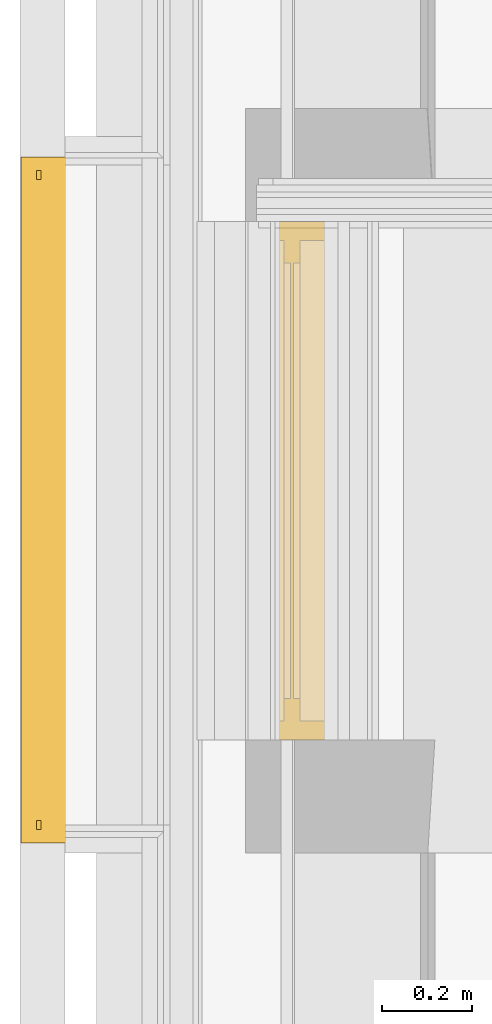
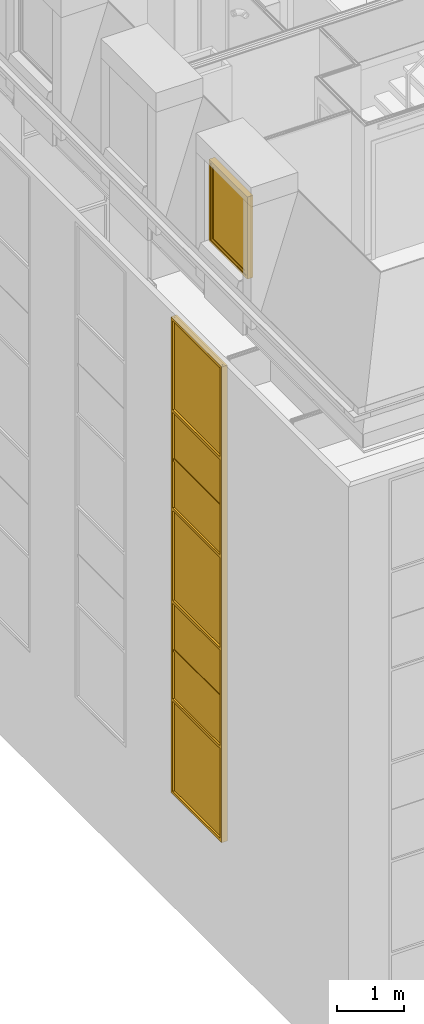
# One storey, part 95 of 169: 1 curtain wall, 1 window.
"""IFC2X3 building model written with IfcOpenShell, lengths in metres."""

from ifc_helpers import new_model, entity, si_unit, converted_unit, derived_unit, money_unit, direction, frame, origin_with_axes, place, context, subcontext, project, spatial, faceted_brep, material, type_object, element, save


model = new_model("IFC2X3")

# Units and contexts
model_context = context("Model", 3, precision=1e-05, world=origin_with_axes(), true_north=direction((0.0, 1.0)))
body_context = subcontext(model_context, "Body", "Model", "MODEL_VIEW", scale=1.0)
ifc_project = project(units=[si_unit("LENGTHUNIT", "METRE"), si_unit("AREAUNIT", "SQUARE_METRE"), si_unit("VOLUMEUNIT", "CUBIC_METRE"), si_unit("ABSORBEDDOSEUNIT", "GRAY"), si_unit("AMOUNTOFSUBSTANCEUNIT", "MOLE"), si_unit("DOSEEQUIVALENTUNIT", "SIEVERT"), si_unit("ELECTRICCAPACITANCEUNIT", "FARAD"), si_unit("ELECTRICCHARGEUNIT", "COULOMB"), si_unit("ELECTRICCONDUCTANCEUNIT", "SIEMENS"), si_unit("ELECTRICCURRENTUNIT", "AMPERE"), si_unit("ELECTRICRESISTANCEUNIT", "OHM"), si_unit("ELECTRICVOLTAGEUNIT", "VOLT"), si_unit("ENERGYUNIT", "JOULE"), si_unit("FORCEUNIT", "NEWTON"), si_unit("FREQUENCYUNIT", "HERTZ"), si_unit("ILLUMINANCEUNIT", "LUX"), si_unit("INDUCTANCEUNIT", "HENRY"), si_unit("LUMINOUSFLUXUNIT", "LUMEN"), si_unit("LUMINOUSINTENSITYUNIT", "CANDELA"), si_unit("MAGNETICFLUXDENSITYUNIT", "TESLA"), si_unit("MAGNETICFLUXUNIT", "WEBER"), si_unit("MASSUNIT", "GRAM"), converted_unit("PLANEANGLEUNIT", "degree", entity("IfcReal", 0.0174532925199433), si_unit("PLANEANGLEUNIT", "RADIAN"), dimensions=[0, 0, 0, 0, 0, 0, 0]), si_unit("POWERUNIT", "WATT"), si_unit("PRESSUREUNIT", "PASCAL"), si_unit("RADIOACTIVITYUNIT", "BECQUEREL"), si_unit("SOLIDANGLEUNIT", "STERADIAN"), si_unit("THERMODYNAMICTEMPERATUREUNIT", "KELVIN"), si_unit("TIMEUNIT", "SECOND"), derived_unit("ACCELERATIONUNIT", [(si_unit("LENGTHUNIT", "METRE"), 1), (si_unit("TIMEUNIT", "SECOND"), -2)]), derived_unit("ANGULARVELOCITYUNIT", [(converted_unit("PLANEANGLEUNIT", "degree", entity("IfcReal", 0.0174532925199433), si_unit("PLANEANGLEUNIT", "RADIAN"), dimensions=[0, 0, 0, 0, 0, 0, 0]), 1), (si_unit("TIMEUNIT", "SECOND"), -1)]), derived_unit("CURVATUREUNIT", [(converted_unit("PLANEANGLEUNIT", "degree", entity("IfcReal", 0.0174532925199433), si_unit("PLANEANGLEUNIT", "RADIAN"), dimensions=[0, 0, 0, 0, 0, 0, 0]), 1), (si_unit("LENGTHUNIT", "METRE"), -1)]), derived_unit("DYNAMICVISCOSITYUNIT", [(si_unit("PRESSUREUNIT", "PASCAL"), 1), (si_unit("TIMEUNIT", "SECOND"), 1)]), derived_unit("HEATFLUXDENSITYUNIT", [(si_unit("POWERUNIT", "WATT"), 1), (si_unit("LENGTHUNIT", "METRE"), -2)]), derived_unit("HEATINGVALUEUNIT", [(si_unit("ENERGYUNIT", "JOULE"), 1), (si_unit("MASSUNIT", "GRAM"), -1)]), derived_unit("INTEGERCOUNTRATEUNIT", [(si_unit("TIMEUNIT", "SECOND"), -1)]), derived_unit("IONCONCENTRATIONUNIT", [(si_unit("MASSUNIT", "GRAM"), 1), (si_unit("VOLUMEUNIT", "CUBIC_METRE"), -1)]), derived_unit("ISOTHERMALMOISTURECAPACITYUNIT", [(si_unit("VOLUMEUNIT", "CUBIC_METRE"), 1), (si_unit("MASSUNIT", "GRAM"), -1)]), derived_unit("KINEMATICVISCOSITYUNIT", [(si_unit("AREAUNIT", "SQUARE_METRE"), 1), (si_unit("TIMEUNIT", "SECOND"), -1)]), derived_unit("LINEARFORCEUNIT", [(si_unit("FORCEUNIT", "NEWTON"), 1), (si_unit("LENGTHUNIT", "METRE"), -1)]), derived_unit("LINEARMOMENTUNIT", [(si_unit("FORCEUNIT", "NEWTON"), 1), (si_unit("LENGTHUNIT", "METRE"), -1)]), derived_unit("LINEARSTIFFNESSUNIT", [(si_unit("FORCEUNIT", "NEWTON"), 1), (si_unit("LENGTHUNIT", "METRE"), -1)]), derived_unit("LINEARVELOCITYUNIT", [(si_unit("LENGTHUNIT", "METRE"), 1), (si_unit("TIMEUNIT", "SECOND"), -1)]), derived_unit("LUMINOUSINTENSITYDISTRIBUTIONUNIT", [(si_unit("LUMINOUSINTENSITYUNIT", "CANDELA"), 1), (si_unit("LUMINOUSFLUXUNIT", "LUMEN"), -1)]), derived_unit("MASSDENSITYUNIT", [(si_unit("MASSUNIT", "GRAM"), 1), (si_unit("VOLUMEUNIT", "CUBIC_METRE"), -1)]), derived_unit("MASSFLOWRATEUNIT", [(si_unit("MASSUNIT", "GRAM"), 1), (si_unit("TIMEUNIT", "SECOND"), -1)]), derived_unit("MASSPERLENGTHUNIT", [(si_unit("MASSUNIT", "GRAM"), 1), (si_unit("LENGTHUNIT", "METRE"), -1)]), derived_unit("MODULUSOFELASTICITYUNIT", [(si_unit("FORCEUNIT", "NEWTON"), 1), (si_unit("AREAUNIT", "SQUARE_METRE"), -1)]), derived_unit("MODULUSOFLINEARSUBGRADEREACTIONUNIT", [(si_unit("FORCEUNIT", "NEWTON"), 1), (si_unit("LENGTHUNIT", "METRE"), -2)]), derived_unit("MODULUSOFROTATIONALSUBGRADEREACTIONUNIT", [(si_unit("FORCEUNIT", "NEWTON"), 1), (si_unit("LENGTHUNIT", "METRE"), 1)]), derived_unit("MODULUSOFSUBGRADEREACTIONUNIT", [(si_unit("FORCEUNIT", "NEWTON"), 1), (si_unit("VOLUMEUNIT", "CUBIC_METRE"), -1)]), derived_unit("MOISTUREDIFFUSIVITYUNIT", [(si_unit("VOLUMEUNIT", "CUBIC_METRE"), 1), (si_unit("TIMEUNIT", "SECOND"), -1)]), derived_unit("MOLECULARWEIGHTUNIT", [(si_unit("MASSUNIT", "GRAM"), 1), (si_unit("AMOUNTOFSUBSTANCEUNIT", "MOLE"), -1)]), derived_unit("PLANARFORCEUNIT", [(si_unit("FORCEUNIT", "NEWTON"), 1), (si_unit("LENGTHUNIT", "METRE"), -2)]), derived_unit("ROTATIONALFREQUENCYUNIT", [(si_unit("TIMEUNIT", "SECOND"), -1)]), derived_unit("ROTATIONALMASSUNIT", [(si_unit("MASSUNIT", "GRAM"), 1), (si_unit("LENGTHUNIT", "METRE"), 2)]), derived_unit("ROTATIONALSTIFFNESSUNIT", [(si_unit("FORCEUNIT", "NEWTON"), 1), (si_unit("LENGTHUNIT", "METRE"), 1), (converted_unit("PLANEANGLEUNIT", "degree", entity("IfcReal", 0.0174532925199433), si_unit("PLANEANGLEUNIT", "RADIAN"), dimensions=[0, 0, 0, 0, 0, 0, 0]), -1)]), derived_unit("SECTIONAREAINTEGRALUNIT", [(si_unit("LENGTHUNIT", "METRE"), 5)]), derived_unit("SECTIONMODULUSUNIT", [(si_unit("LENGTHUNIT", "METRE"), 3)]), derived_unit("SHEARMODULUSUNIT", [(si_unit("FORCEUNIT", "NEWTON"), 1), (si_unit("AREAUNIT", "SQUARE_METRE"), -1)]), derived_unit("SOUNDPOWERUNIT", [(si_unit("ENERGYUNIT", "JOULE"), 1), (si_unit("TIMEUNIT", "SECOND"), -1)]), derived_unit("SPECIFICHEATCAPACITYUNIT", [(si_unit("FORCEUNIT", "NEWTON"), 1), (si_unit("MASSUNIT", "GRAM"), -1), (si_unit("THERMODYNAMICTEMPERATUREUNIT", "KELVIN"), -1)]), derived_unit("TEMPERATUREGRADIENTUNIT", [(si_unit("THERMODYNAMICTEMPERATUREUNIT", "KELVIN"), 1), (si_unit("LENGTHUNIT", "METRE"), -1)]), derived_unit("THERMALADMITTANCEUNIT", [(si_unit("POWERUNIT", "WATT"), 1), (si_unit("AREAUNIT", "SQUARE_METRE"), -1), (si_unit("THERMODYNAMICTEMPERATUREUNIT", "KELVIN"), -1)]), derived_unit("THERMALCONDUCTANCEUNIT", [(si_unit("POWERUNIT", "WATT"), 1), (si_unit("LENGTHUNIT", "METRE"), -1), (si_unit("THERMODYNAMICTEMPERATUREUNIT", "KELVIN"), -1)]), derived_unit("THERMALEXPANSIONCOEFFICIENTUNIT", [(si_unit("THERMODYNAMICTEMPERATUREUNIT", "KELVIN"), -1)]), derived_unit("THERMALRESISTANCEUNIT", [(si_unit("AREAUNIT", "SQUARE_METRE"), 1), (si_unit("POWERUNIT", "WATT"), -1)]), derived_unit("THERMALTRANSMITTANCEUNIT", [(si_unit("POWERUNIT", "WATT"), 1), (si_unit("AREAUNIT", "SQUARE_METRE"), -1), (si_unit("THERMODYNAMICTEMPERATUREUNIT", "KELVIN"), -1)]), derived_unit("TORQUEUNIT", [(si_unit("FORCEUNIT", "NEWTON"), 1), (si_unit("LENGTHUNIT", "METRE"), 1)]), derived_unit("VAPORPERMEABILITYUNIT", [(si_unit("MASSUNIT", "GRAM"), 1), (si_unit("TIMEUNIT", "SECOND"), -1)]), derived_unit("VOLUMETRICFLOWRATEUNIT", [(si_unit("VOLUMEUNIT", "CUBIC_METRE"), 1), (si_unit("TIMEUNIT", "SECOND"), -1)]), derived_unit("WARPINGCONSTANTUNIT", [(si_unit("LENGTHUNIT", "METRE"), 6)]), derived_unit("WARPINGMOMENTUNIT", [(si_unit("FORCEUNIT", "NEWTON"), 1), (si_unit("LENGTHUNIT", "METRE"), 2)]), money_unit("GBP")], contexts=[model_context])

# Site, building, storey
site_placement = place(None, origin_with_axes())
site = spatial("IfcSite", under=ifc_project, at=site_placement, Name="Site", CompositionType="ELEMENT")
building_placement = place(site_placement, origin_with_axes())
building = spatial("IfcBuilding", under=site, at=building_placement, Name="Building01", CompositionType="ELEMENT")
storey_placement = place(building_placement, frame((0.0, 0.0, 5.15), z_axis=(0.0, 0.0, 1.0), x_axis=(1.0, 0.0, 0.0)))
storey = spatial("IfcBuildingStorey", under=building, at=storey_placement, Name="1F", CompositionType="ELEMENT", Elevation=5.15)

# Curtain wall
ifc_material_1 = material(Name="A-CurtainWall_Frame")
curtain_wall_type = type_object("IfcCurtainWallType", Name="Pattern - Maximum Spacing", PredefinedType="NOTDEFINED")
curtain_wall_placement = place(storey_placement, frame((0.0, 0.0, -5.15), z_axis=(0.0, 0.0, 1.0), x_axis=(1.0, 0.0, 0.0)))
element("IfcCurtainWall", 1, at=curtain_wall_placement, inside=storey, type_object=curtain_wall_type, material=ifc_material_1, Name="15", ObjectType="Pattern - Maximum Spacing", context=body_context, shape_type="Brep", body=[
    faceted_brep([(0.047043, 5.28718, 7.729632), (0.037043, 5.28718, 7.729632), (0.037043, 3.82718, 7.729632), (0.047043, 3.82718, 7.729632), (0.047043, 5.28718, 6.045508), (0.037043, 5.28718, 6.045508), (0.047043, 3.82718, 6.045508), (0.037043, 3.82718, 6.045508)], [[[0, 1, 2, 3]], [[4, 5, 1, 0]], [[6, 7, 5, 4]], [[3, 2, 7, 6]], [[1, 5, 7, 2]], [[3, 6, 4, 0]]]),
    faceted_brep([(0.002043, 3.84718, 6.015508), (0.037043, 3.84718, 6.015508), (0.037043, 3.82718, 6.015508), (0.047043, 3.82718, 6.015508), (0.047043, 3.84718, 6.015508), (0.102043, 3.84718, 6.015508), (0.102043, 3.79718, 6.015508), (0.002043, 3.79718, 6.015508), (0.002043, 3.79718, 7.734632), (0.002043, 3.84718, 7.734632), (0.037043, 3.84718, 7.734632), (0.037043, 3.82718, 7.734632), (0.047043, 3.82718, 7.734632), (0.047043, 3.84718, 7.734632), (0.102043, 3.84718, 7.734632), (0.102043, 3.79718, 7.734632)], [[[0, 1, 2, 3, 4, 5, 6, 7]], [[7, 8, 9, 0]], [[0, 9, 10, 1]], [[1, 10, 11, 2]], [[2, 11, 12, 3]], [[3, 12, 13, 4]], [[4, 13, 14, 5]], [[5, 14, 15, 6]], [[6, 15, 8, 7]]]),
    faceted_brep([(0.002043, 5.26718, 6.065508), (0.037043, 5.26718, 6.065508), (0.037043, 5.26718, 6.045508), (0.047043, 5.26718, 6.045508), (0.047043, 5.26718, 6.065508), (0.102043, 5.26718, 6.065508), (0.102043, 5.26718, 6.015508), (0.002043, 5.26718, 6.015508), (0.002043, 3.84718, 6.015508), (0.002043, 3.84718, 6.065508), (0.037043, 3.84718, 6.065508), (0.037043, 3.84718, 6.045508), (0.047043, 3.84718, 6.045508), (0.047043, 3.84718, 6.065508), (0.102043, 3.84718, 6.065508), (0.102043, 3.84718, 6.015508)], [[[0, 1, 2, 3, 4, 5, 6, 7]], [[7, 8, 9, 0]], [[0, 9, 10, 1]], [[1, 10, 11, 2]], [[2, 11, 12, 3]], [[3, 12, 13, 4]], [[4, 13, 14, 5]], [[5, 14, 15, 6]], [[6, 15, 8, 7]], [[8, 15, 14, 13, 12, 11, 10, 9]]]),
    faceted_brep([(0.037043, 5.28718, 6.015508), (0.037043, 5.28718, 7.734632), (0.037043, 5.26718, 7.734632), (0.037043, 5.26718, 6.015508), (0.047043, 5.28718, 6.015508), (0.047043, 5.28718, 7.734632), (0.047043, 5.26718, 6.015508), (0.047043, 5.26718, 7.734632), (0.102043, 5.26718, 6.015508), (0.102043, 5.26718, 7.734632), (0.102043, 5.31718, 6.015508), (0.102043, 5.31718, 7.734632), (0.002043, 5.31718, 6.015508), (0.002043, 5.31718, 7.734632), (0.002043, 5.26718, 6.015508), (0.002043, 5.26718, 7.734632)], [[[0, 1, 2, 3]], [[4, 5, 1, 0]], [[6, 7, 5, 4]], [[8, 9, 7, 6]], [[10, 11, 9, 8]], [[12, 13, 11, 10]], [[14, 15, 13, 12]], [[3, 2, 15, 14]], [[14, 12, 10, 8, 6, 4, 0, 3]]]),
    faceted_brep([(0.047043, 3.84718, 7.739632), (0.037043, 3.84718, 7.739632), (0.037043, 3.84718, 7.759632), (0.002043, 3.84718, 7.759632), (0.002043, 3.84718, 7.709632), (0.037043, 3.84718, 7.709632), (0.037043, 3.84718, 7.729632), (0.047043, 3.84718, 7.729632), (0.047043, 3.84718, 7.709632), (0.102043, 3.84718, 7.709632), (0.102043, 3.84718, 7.759632), (0.047043, 3.84718, 7.759632), (0.047043, 5.26718, 7.759632), (0.047043, 5.26718, 7.739632), (0.037043, 5.26718, 7.739632), (0.037043, 5.26718, 7.759632), (0.002043, 5.26718, 7.759632), (0.002043, 5.26718, 7.709632), (0.037043, 5.26718, 7.709632), (0.047043, 5.26718, 7.729632), (0.047043, 5.26718, 7.709632), (0.037043, 5.26718, 7.729632), (0.102043, 5.26718, 7.759632), (0.102043, 5.26718, 7.709632)], [[[0, 1, 2, 3, 4, 5, 6, 7, 8, 9, 10, 11]], [[11, 12, 13, 0]], [[0, 13, 14, 1]], [[1, 14, 15, 2]], [[2, 15, 16, 3]], [[3, 16, 17, 4]], [[4, 17, 18, 5]], [[7, 19, 20, 8]], [[6, 21, 19, 7]], [[5, 18, 21, 6]], [[10, 22, 12, 11]], [[9, 23, 22, 10]], [[8, 20, 23, 9]], [[20, 19, 21, 18, 17, 16, 15, 14, 13, 12, 22, 23]]]),
    faceted_brep([(0.052043, 5.28718, 8.626522), (0.032043, 5.28718, 8.626522), (0.032043, 3.82718, 8.626522), (0.052043, 3.82718, 8.626522), (0.052043, 5.28718, 7.739632), (0.032043, 5.28718, 7.739632), (0.052043, 3.82718, 7.739632), (0.032043, 3.82718, 7.739632)], [[[0, 1, 2, 3]], [[4, 5, 1, 0]], [[6, 7, 5, 4]], [[3, 2, 7, 6]], [[1, 5, 7, 2]], [[3, 6, 4, 0]]]),
    faceted_brep([(0.102043, 3.79718, 8.631522), (0.102043, 3.79718, 7.734632), (0.102043, 3.84718, 7.734632), (0.102043, 3.84718, 8.631522), (0.002043, 3.79718, 8.631522), (0.002043, 3.79718, 7.734632), (0.002043, 3.84718, 8.631522), (0.002043, 3.84718, 7.734632), (0.037043, 3.84718, 8.631522), (0.037043, 3.84718, 7.734632), (0.037043, 3.82718, 8.631522), (0.037043, 3.82718, 7.734632), (0.047043, 3.82718, 8.631522), (0.047043, 3.82718, 7.734632), (0.047043, 3.84718, 8.631522), (0.047043, 3.84718, 7.734632)], [[[0, 1, 2, 3]], [[4, 5, 1, 0]], [[6, 7, 5, 4]], [[8, 9, 7, 6]], [[10, 11, 9, 8]], [[12, 13, 11, 10]], [[14, 15, 13, 12]], [[3, 2, 15, 14]]]),
    faceted_brep([(0.037043, 5.28718, 7.734632), (0.037043, 5.28718, 8.631522), (0.037043, 5.26718, 8.631522), (0.037043, 5.26718, 7.734632), (0.047043, 5.28718, 7.734632), (0.047043, 5.28718, 8.631522), (0.047043, 5.26718, 7.734632), (0.047043, 5.26718, 8.631522), (0.102043, 5.26718, 7.734632), (0.102043, 5.26718, 8.631522), (0.102043, 5.31718, 7.734632), (0.102043, 5.31718, 8.631522), (0.002043, 5.31718, 7.734632), (0.002043, 5.31718, 8.631522), (0.002043, 5.26718, 7.734632), (0.002043, 5.26718, 8.631522)], [[[0, 1, 2, 3]], [[4, 5, 1, 0]], [[6, 7, 5, 4]], [[8, 9, 7, 6]], [[10, 11, 9, 8]], [[12, 13, 11, 10]], [[14, 15, 13, 12]], [[3, 2, 15, 14]]]),
    faceted_brep([(0.064543, 3.84718, 8.636522), (0.054543, 3.84718, 8.636522), (0.054543, 3.84718, 8.656522), (0.019543, 3.84718, 8.656522), (0.019543, 3.84718, 8.606522), (0.054543, 3.84718, 8.606522), (0.054543, 3.84718, 8.626522), (0.064543, 3.84718, 8.626522), (0.064543, 3.84718, 8.606522), (0.119543, 3.84718, 8.606522), (0.119543, 3.84718, 8.656522), (0.064543, 3.84718, 8.656522), (0.064543, 5.26718, 8.656522), (0.064543, 5.26718, 8.636522), (0.054543, 5.26718, 8.636522), (0.054543, 5.26718, 8.656522), (0.019543, 5.26718, 8.656522), (0.019543, 5.26718, 8.606522), (0.054543, 5.26718, 8.606522), (0.064543, 5.26718, 8.626522), (0.064543, 5.26718, 8.606522), (0.054543, 5.26718, 8.626522), (0.119543, 5.26718, 8.656522), (0.119543, 5.26718, 8.606522)], [[[0, 1, 2, 3, 4, 5, 6, 7, 8, 9, 10, 11]], [[11, 12, 13, 0]], [[0, 13, 14, 1]], [[1, 14, 15, 2]], [[2, 15, 16, 3]], [[3, 16, 17, 4]], [[4, 17, 18, 5]], [[7, 19, 20, 8]], [[6, 21, 19, 7]], [[5, 18, 21, 6]], [[10, 22, 12, 11]], [[9, 23, 22, 10]], [[8, 20, 23, 9]], [[20, 19, 21, 18, 17, 16, 15, 14, 13, 12, 22, 23]]]),
    faceted_brep([(0.052043, 5.28718, 9.523411), (0.032043, 5.28718, 9.523411), (0.032043, 3.82718, 9.523411), (0.052043, 3.82718, 9.523411), (0.052043, 5.28718, 8.636522), (0.032043, 5.28718, 8.636522), (0.052043, 3.82718, 8.636522), (0.032043, 3.82718, 8.636522)], [[[0, 1, 2, 3]], [[4, 5, 1, 0]], [[6, 7, 5, 4]], [[3, 2, 7, 6]], [[1, 5, 7, 2]], [[3, 6, 4, 0]]]),
    faceted_brep([(0.102043, 3.79718, 9.528411), (0.102043, 3.79718, 8.631522), (0.102043, 3.84718, 8.631522), (0.102043, 3.84718, 9.528411), (0.002043, 3.79718, 9.528411), (0.002043, 3.79718, 8.631522), (0.002043, 3.84718, 9.528411), (0.002043, 3.84718, 8.631522), (0.037043, 3.84718, 9.528411), (0.037043, 3.84718, 8.631522), (0.037043, 3.82718, 9.528411), (0.037043, 3.82718, 8.631522), (0.047043, 3.82718, 9.528411), (0.047043, 3.82718, 8.631522), (0.047043, 3.84718, 9.528411), (0.047043, 3.84718, 8.631522)], [[[0, 1, 2, 3]], [[4, 5, 1, 0]], [[6, 7, 5, 4]], [[8, 9, 7, 6]], [[10, 11, 9, 8]], [[12, 13, 11, 10]], [[14, 15, 13, 12]], [[3, 2, 15, 14]]]),
    faceted_brep([(0.037043, 5.28718, 8.631522), (0.037043, 5.28718, 9.528411), (0.037043, 5.26718, 9.528411), (0.037043, 5.26718, 8.631522), (0.047043, 5.28718, 8.631522), (0.047043, 5.28718, 9.528411), (0.047043, 5.26718, 8.631522), (0.047043, 5.26718, 9.528411), (0.102043, 5.26718, 8.631522), (0.102043, 5.26718, 9.528411), (0.102043, 5.31718, 8.631522), (0.102043, 5.31718, 9.528411), (0.002043, 5.31718, 8.631522), (0.002043, 5.31718, 9.528411), (0.002043, 5.26718, 8.631522), (0.002043, 5.26718, 9.528411)], [[[0, 1, 2, 3]], [[4, 5, 1, 0]], [[6, 7, 5, 4]], [[8, 9, 7, 6]], [[10, 11, 9, 8]], [[12, 13, 11, 10]], [[14, 15, 13, 12]], [[3, 2, 15, 14]]]),
    faceted_brep([(0.047043, 3.84718, 9.533411), (0.037043, 3.84718, 9.533411), (0.037043, 3.84718, 9.553411), (0.002043, 3.84718, 9.553411), (0.002043, 3.84718, 9.503411), (0.037043, 3.84718, 9.503411), (0.037043, 3.84718, 9.523411), (0.047043, 3.84718, 9.523411), (0.047043, 3.84718, 9.503411), (0.102043, 3.84718, 9.503411), (0.102043, 3.84718, 9.553411), (0.047043, 3.84718, 9.553411), (0.047043, 5.26718, 9.553411), (0.047043, 5.26718, 9.533411), (0.037043, 5.26718, 9.533411), (0.037043, 5.26718, 9.553411), (0.002043, 5.26718, 9.553411), (0.002043, 5.26718, 9.503411), (0.037043, 5.26718, 9.503411), (0.047043, 5.26718, 9.523411), (0.047043, 5.26718, 9.503411), (0.037043, 5.26718, 9.523411), (0.102043, 5.26718, 9.553411), (0.102043, 5.26718, 9.503411)], [[[0, 1, 2, 3, 4, 5, 6, 7, 8, 9, 10, 11]], [[11, 12, 13, 0]], [[0, 13, 14, 1]], [[1, 14, 15, 2]], [[2, 15, 16, 3]], [[3, 16, 17, 4]], [[4, 17, 18, 5]], [[7, 19, 20, 8]], [[6, 21, 19, 7]], [[5, 18, 21, 6]], [[10, 22, 12, 11]], [[9, 23, 22, 10]], [[8, 20, 23, 9]], [[20, 19, 21, 18, 17, 16, 15, 14, 13, 12, 22, 23]]]),
    faceted_brep([(0.047043, 5.28718, 11.217536), (0.037043, 5.28718, 11.217536), (0.037043, 3.82718, 11.217536), (0.047043, 3.82718, 11.217536), (0.047043, 5.28718, 9.533411), (0.037043, 5.28718, 9.533411), (0.047043, 3.82718, 9.533411), (0.037043, 3.82718, 9.533411)], [[[0, 1, 2, 3]], [[4, 5, 1, 0]], [[6, 7, 5, 4]], [[3, 2, 7, 6]], [[1, 5, 7, 2]], [[3, 6, 4, 0]]]),
    faceted_brep([(0.102043, 3.79718, 11.222536), (0.102043, 3.79718, 9.528411), (0.102043, 3.84718, 9.528411), (0.102043, 3.84718, 11.222536), (0.002043, 3.79718, 11.222536), (0.002043, 3.79718, 9.528411), (0.002043, 3.84718, 11.222536), (0.002043, 3.84718, 9.528411), (0.037043, 3.84718, 11.222536), (0.037043, 3.84718, 9.528411), (0.037043, 3.82718, 11.222536), (0.037043, 3.82718, 9.528411), (0.047043, 3.82718, 11.222536), (0.047043, 3.82718, 9.528411), (0.047043, 3.84718, 11.222536), (0.047043, 3.84718, 9.528411)], [[[0, 1, 2, 3]], [[4, 5, 1, 0]], [[6, 7, 5, 4]], [[8, 9, 7, 6]], [[10, 11, 9, 8]], [[12, 13, 11, 10]], [[14, 15, 13, 12]], [[3, 2, 15, 14]]]),
    faceted_brep([(0.037043, 5.28718, 9.528411), (0.037043, 5.28718, 11.222536), (0.037043, 5.26718, 11.222536), (0.037043, 5.26718, 9.528411), (0.047043, 5.28718, 9.528411), (0.047043, 5.28718, 11.222536), (0.047043, 5.26718, 9.528411), (0.047043, 5.26718, 11.222536), (0.102043, 5.26718, 9.528411), (0.102043, 5.26718, 11.222536), (0.102043, 5.31718, 9.528411), (0.102043, 5.31718, 11.222536), (0.002043, 5.31718, 9.528411), (0.002043, 5.31718, 11.222536), (0.002043, 5.26718, 9.528411), (0.002043, 5.26718, 11.222536)], [[[0, 1, 2, 3]], [[4, 5, 1, 0]], [[6, 7, 5, 4]], [[8, 9, 7, 6]], [[10, 11, 9, 8]], [[12, 13, 11, 10]], [[14, 15, 13, 12]], [[3, 2, 15, 14]]]),
    faceted_brep([(0.047043, 3.84718, 11.227536), (0.037043, 3.84718, 11.227536), (0.037043, 3.84718, 11.247536), (0.002043, 3.84718, 11.247536), (0.002043, 3.84718, 11.197536), (0.037043, 3.84718, 11.197536), (0.037043, 3.84718, 11.217536), (0.047043, 3.84718, 11.217536), (0.047043, 3.84718, 11.197536), (0.102043, 3.84718, 11.197536), (0.102043, 3.84718, 11.247536), (0.047043, 3.84718, 11.247536), (0.047043, 5.26718, 11.247536), (0.047043, 5.26718, 11.227536), (0.037043, 5.26718, 11.227536), (0.037043, 5.26718, 11.247536), (0.002043, 5.26718, 11.247536), (0.002043, 5.26718, 11.197536), (0.037043, 5.26718, 11.197536), (0.047043, 5.26718, 11.217536), (0.047043, 5.26718, 11.197536), (0.037043, 5.26718, 11.217536), (0.102043, 5.26718, 11.247536), (0.102043, 5.26718, 11.197536)], [[[0, 1, 2, 3, 4, 5, 6, 7, 8, 9, 10, 11]], [[11, 12, 13, 0]], [[0, 13, 14, 1]], [[1, 14, 15, 2]], [[2, 15, 16, 3]], [[3, 16, 17, 4]], [[4, 17, 18, 5]], [[7, 19, 20, 8]], [[6, 21, 19, 7]], [[5, 18, 21, 6]], [[10, 22, 12, 11]], [[9, 23, 22, 10]], [[8, 20, 23, 9]], [[20, 19, 21, 18, 17, 16, 15, 14, 13, 12, 22, 23]]]),
    faceted_brep([(0.052043, 5.28718, 12.114425), (0.032043, 5.28718, 12.114425), (0.032043, 3.82718, 12.114425), (0.052043, 3.82718, 12.114425), (0.052043, 5.28718, 11.227536), (0.032043, 5.28718, 11.227536), (0.052043, 3.82718, 11.227536), (0.032043, 3.82718, 11.227536)], [[[0, 1, 2, 3]], [[4, 5, 1, 0]], [[6, 7, 5, 4]], [[3, 2, 7, 6]], [[1, 5, 7, 2]], [[3, 6, 4, 0]]]),
    faceted_brep([(0.102043, 3.79718, 12.119425), (0.102043, 3.79718, 11.222536), (0.102043, 3.84718, 11.222536), (0.102043, 3.84718, 12.119425), (0.002043, 3.79718, 12.119425), (0.002043, 3.79718, 11.222536), (0.002043, 3.84718, 12.119425), (0.002043, 3.84718, 11.222536), (0.037043, 3.84718, 12.119425), (0.037043, 3.84718, 11.222536), (0.037043, 3.82718, 12.119425), (0.037043, 3.82718, 11.222536), (0.047043, 3.82718, 12.119425), (0.047043, 3.82718, 11.222536), (0.047043, 3.84718, 12.119425), (0.047043, 3.84718, 11.222536)], [[[0, 1, 2, 3]], [[4, 5, 1, 0]], [[6, 7, 5, 4]], [[8, 9, 7, 6]], [[10, 11, 9, 8]], [[12, 13, 11, 10]], [[14, 15, 13, 12]], [[3, 2, 15, 14]]]),
    faceted_brep([(0.037043, 5.28718, 11.222536), (0.037043, 5.28718, 12.119425), (0.037043, 5.26718, 12.119425), (0.037043, 5.26718, 11.222536), (0.047043, 5.28718, 11.222536), (0.047043, 5.28718, 12.119425), (0.047043, 5.26718, 11.222536), (0.047043, 5.26718, 12.119425), (0.102043, 5.26718, 11.222536), (0.102043, 5.26718, 12.119425), (0.102043, 5.31718, 11.222536), (0.102043, 5.31718, 12.119425), (0.002043, 5.31718, 11.222536), (0.002043, 5.31718, 12.119425), (0.002043, 5.26718, 11.222536), (0.002043, 5.26718, 12.119425)], [[[0, 1, 2, 3]], [[4, 5, 1, 0]], [[6, 7, 5, 4]], [[8, 9, 7, 6]], [[10, 11, 9, 8]], [[12, 13, 11, 10]], [[14, 15, 13, 12]], [[3, 2, 15, 14]]]),
    faceted_brep([(0.064543, 3.84718, 12.124425), (0.054543, 3.84718, 12.124425), (0.054543, 3.84718, 12.144425), (0.019543, 3.84718, 12.144425), (0.019543, 3.84718, 12.094425), (0.054543, 3.84718, 12.094425), (0.054543, 3.84718, 12.114425), (0.064543, 3.84718, 12.114425), (0.064543, 3.84718, 12.094425), (0.119543, 3.84718, 12.094425), (0.119543, 3.84718, 12.144425), (0.064543, 3.84718, 12.144425), (0.064543, 5.26718, 12.144425), (0.064543, 5.26718, 12.124425), (0.054543, 5.26718, 12.124425), (0.054543, 5.26718, 12.144425), (0.019543, 5.26718, 12.144425), (0.019543, 5.26718, 12.094425), (0.054543, 5.26718, 12.094425), (0.064543, 5.26718, 12.114425), (0.064543, 5.26718, 12.094425), (0.054543, 5.26718, 12.114425), (0.119543, 5.26718, 12.144425), (0.119543, 5.26718, 12.094425)], [[[0, 1, 2, 3, 4, 5, 6, 7, 8, 9, 10, 11]], [[11, 12, 13, 0]], [[0, 13, 14, 1]], [[1, 14, 15, 2]], [[2, 15, 16, 3]], [[3, 16, 17, 4]], [[4, 17, 18, 5]], [[7, 19, 20, 8]], [[6, 21, 19, 7]], [[5, 18, 21, 6]], [[10, 22, 12, 11]], [[9, 23, 22, 10]], [[8, 20, 23, 9]], [[20, 19, 21, 18, 17, 16, 15, 14, 13, 12, 22, 23]]]),
    faceted_brep([(0.047043, 3.82718, 13.021314), (0.037043, 3.82718, 13.021314), (0.037043, 5.28718, 13.021314), (0.047043, 5.28718, 13.021314), (0.047043, 3.82718, 14.685508), (0.037043, 3.82718, 14.685508), (0.047043, 5.28718, 14.685508), (0.037043, 5.28718, 14.685508)], [[[0, 1, 2, 3]], [[4, 5, 1, 0]], [[6, 7, 5, 4]], [[3, 2, 7, 6]], [[1, 5, 7, 2]], [[3, 6, 4, 0]]]),
    faceted_brep([(0.037043, 5.28718, 14.715508), (0.047043, 5.28718, 14.715508), (0.047043, 5.26718, 14.715508), (0.102043, 5.26718, 14.715508), (0.102043, 5.31718, 14.715508), (0.002043, 5.31718, 14.715508), (0.002043, 5.26718, 14.715508), (0.037043, 5.26718, 14.715508), (0.037043, 5.26718, 13.016314), (0.037043, 5.28718, 13.016314), (0.047043, 5.28718, 13.016314), (0.047043, 5.26718, 13.016314), (0.102043, 5.26718, 13.016314), (0.102043, 5.31718, 13.016314), (0.002043, 5.31718, 13.016314), (0.002043, 5.26718, 13.016314)], [[[0, 1, 2, 3, 4, 5, 6, 7]], [[7, 8, 9, 0]], [[0, 9, 10, 1]], [[1, 10, 11, 2]], [[2, 11, 12, 3]], [[3, 12, 13, 4]], [[4, 13, 14, 5]], [[5, 14, 15, 6]], [[6, 15, 8, 7]]]),
    faceted_brep([(0.037043, 3.84718, 14.685508), (0.047043, 3.84718, 14.685508), (0.047043, 3.84718, 14.665508), (0.102043, 3.84718, 14.665508), (0.102043, 3.84718, 14.715508), (0.002043, 3.84718, 14.715508), (0.002043, 3.84718, 14.665508), (0.037043, 3.84718, 14.665508), (0.037043, 5.26718, 14.665508), (0.037043, 5.26718, 14.685508), (0.047043, 5.26718, 14.685508), (0.047043, 5.26718, 14.665508), (0.102043, 5.26718, 14.665508), (0.102043, 5.26718, 14.715508), (0.002043, 5.26718, 14.715508), (0.002043, 5.26718, 14.665508)], [[[0, 1, 2, 3, 4, 5, 6, 7]], [[7, 8, 9, 0]], [[0, 9, 10, 1]], [[1, 10, 11, 2]], [[2, 11, 12, 3]], [[3, 12, 13, 4]], [[4, 13, 14, 5]], [[5, 14, 15, 6]], [[6, 15, 8, 7]], [[8, 15, 14, 13, 12, 11, 10, 9]]]),
    faceted_brep([(0.002043, 3.84718, 14.715508), (0.002043, 3.84718, 13.016314), (0.002043, 3.79718, 13.016314), (0.002043, 3.79718, 14.715508), (0.037043, 3.84718, 14.715508), (0.037043, 3.84718, 13.016314), (0.037043, 3.82718, 14.715508), (0.037043, 3.82718, 13.016314), (0.047043, 3.82718, 14.715508), (0.047043, 3.82718, 13.016314), (0.047043, 3.84718, 14.715508), (0.047043, 3.84718, 13.016314), (0.102043, 3.84718, 14.715508), (0.102043, 3.84718, 13.016314), (0.102043, 3.79718, 14.715508), (0.102043, 3.79718, 13.016314)], [[[0, 1, 2, 3]], [[4, 5, 1, 0]], [[6, 7, 5, 4]], [[8, 9, 7, 6]], [[10, 11, 9, 8]], [[12, 13, 11, 10]], [[14, 15, 13, 12]], [[3, 2, 15, 14]], [[14, 12, 10, 8, 6, 4, 0, 3]]]),
    faceted_brep([(0.037043, 5.26718, 13.021314), (0.047043, 5.26718, 13.021314), (0.047043, 5.26718, 13.041314), (0.102043, 5.26718, 13.041314), (0.102043, 5.26718, 12.991314), (0.047043, 5.26718, 12.991314), (0.047043, 5.26718, 13.011314), (0.037043, 5.26718, 13.011314), (0.037043, 5.26718, 12.991314), (0.002043, 5.26718, 12.991314), (0.002043, 5.26718, 13.041314), (0.037043, 5.26718, 13.041314), (0.037043, 3.84718, 13.041314), (0.037043, 3.84718, 13.021314), (0.047043, 3.84718, 13.021314), (0.047043, 3.84718, 13.041314), (0.102043, 3.84718, 13.041314), (0.102043, 3.84718, 12.991314), (0.047043, 3.84718, 12.991314), (0.037043, 3.84718, 13.011314), (0.037043, 3.84718, 12.991314), (0.047043, 3.84718, 13.011314), (0.002043, 3.84718, 13.041314), (0.002043, 3.84718, 12.991314)], [[[0, 1, 2, 3, 4, 5, 6, 7, 8, 9, 10, 11]], [[11, 12, 13, 0]], [[0, 13, 14, 1]], [[1, 14, 15, 2]], [[2, 15, 16, 3]], [[3, 16, 17, 4]], [[4, 17, 18, 5]], [[7, 19, 20, 8]], [[6, 21, 19, 7]], [[5, 18, 21, 6]], [[10, 22, 12, 11]], [[9, 23, 22, 10]], [[8, 20, 23, 9]], [[20, 19, 21, 18, 17, 16, 15, 14, 13, 12, 22, 23]]]),
    faceted_brep([(0.052043, 5.28718, 13.011314), (0.032043, 5.28718, 13.011314), (0.032043, 3.82718, 13.011314), (0.052043, 3.82718, 13.011314), (0.052043, 5.28718, 12.124425), (0.032043, 5.28718, 12.124425), (0.052043, 3.82718, 12.124425), (0.032043, 3.82718, 12.124425)], [[[0, 1, 2, 3]], [[4, 5, 1, 0]], [[6, 7, 5, 4]], [[3, 2, 7, 6]], [[1, 5, 7, 2]], [[3, 6, 4, 0]]]),
    faceted_brep([(0.102043, 3.79718, 13.016314), (0.102043, 3.79718, 12.119425), (0.102043, 3.84718, 12.119425), (0.102043, 3.84718, 13.016314), (0.002043, 3.79718, 13.016314), (0.002043, 3.79718, 12.119425), (0.002043, 3.84718, 13.016314), (0.002043, 3.84718, 12.119425), (0.037043, 3.84718, 13.016314), (0.037043, 3.84718, 12.119425), (0.037043, 3.82718, 13.016314), (0.037043, 3.82718, 12.119425), (0.047043, 3.82718, 13.016314), (0.047043, 3.82718, 12.119425), (0.047043, 3.84718, 13.016314), (0.047043, 3.84718, 12.119425)], [[[0, 1, 2, 3]], [[4, 5, 1, 0]], [[6, 7, 5, 4]], [[8, 9, 7, 6]], [[10, 11, 9, 8]], [[12, 13, 11, 10]], [[14, 15, 13, 12]], [[3, 2, 15, 14]]]),
    faceted_brep([(0.037043, 5.28718, 12.119425), (0.037043, 5.28718, 13.016314), (0.037043, 5.26718, 13.016314), (0.037043, 5.26718, 12.119425), (0.047043, 5.28718, 12.119425), (0.047043, 5.28718, 13.016314), (0.047043, 5.26718, 12.119425), (0.047043, 5.26718, 13.016314), (0.102043, 5.26718, 12.119425), (0.102043, 5.26718, 13.016314), (0.102043, 5.31718, 12.119425), (0.102043, 5.31718, 13.016314), (0.002043, 5.31718, 12.119425), (0.002043, 5.31718, 13.016314), (0.002043, 5.26718, 12.119425), (0.002043, 5.26718, 13.016314)], [[[0, 1, 2, 3]], [[4, 5, 1, 0]], [[6, 7, 5, 4]], [[8, 9, 7, 6]], [[10, 11, 9, 8]], [[12, 13, 11, 10]], [[14, 15, 13, 12]], [[3, 2, 15, 14]]]),
])

# Space
space_placement = place(storey_placement, frame((12.175, 4.189428, 9.86), z_axis=(0.0, 0.0, 1.0), x_axis=(0.0, 1.0, 0.0)))
space = spatial("IfcSpace", under=storey, at=space_placement, Name="25", CompositionType="ELEMENT", InteriorOrExteriorSpace="NOTDEFINED")

# Window
ifc_material_2 = material(Name="A_BSUK_Windows")
window_style = type_object("IfcWindowStyle", Name="A-Awning", ConstructionType="NOTDEFINED", OperationType="USERDEFINED", ParameterTakesPrecedence=False, Sizeable=False)
window_placement = place(storey_placement, frame((0.549939, 4.024915, 10.83), z_axis=(0.0, 0.0, 1.0), x_axis=(0.0, -1.0, 0.0)))
element("IfcWindow", 2, at=window_placement, inside=space, type_object=window_style, material=ifc_material_2, Name="4.11", ObjectType="A-Awning", OverallHeight=1.50000000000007, OverallWidth=1.15000000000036, context=body_context, shape_type="Brep", body=[
    faceted_brep([(-1.108, 0.0254, 0.042), (-0.042, 0.0254, 0.042), (-0.042, 0.1254, 0.042), (-1.108, 0.1254, 0.042), (-1.108, 0.0254, 1.458), (-1.108, 0.1254, 1.458), (-0.042, 0.0254, 1.458), (-0.042, 0.1254, 1.458), (0.0, 0.0254, 0.0), (0.0, 0.0254, 1.5), (-1.15, 0.0254, 1.5), (-1.15, 0.0254, 0.0), (0.0, 0.1254, 1.5), (-1.15, 0.1254, 1.5), (-1.15, 0.1254, 0.0), (0.0, 0.1254, 0.0)], [[[0, 1, 2, 3]], [[4, 0, 3, 5]], [[6, 4, 5, 7]], [[8, 9, 10, 11], [4, 6, 1, 0]], [[1, 6, 7, 2]], [[12, 13, 10, 9]], [[14, 15, 8, 11]], [[13, 14, 11, 10]], [[13, 12, 15, 14], [2, 7, 5, 3]], [[15, 12, 9, 8]]]),
    faceted_brep([(-1.0572, 0.0354, 0.0928), (-0.0928, 0.0354, 0.0928), (-0.0928, 0.0704, 0.0928), (-1.0572, 0.0704, 0.0928), (-1.0572, 0.0354, 1.4072), (-1.0572, 0.0704, 1.4072), (-0.0928, 0.0354, 1.4072), (-0.0928, 0.0704, 1.4072), (-1.108, 0.0704, 1.458), (-0.042, 0.0704, 1.458), (-0.042, 0.0704, 0.042), (-1.108, 0.0704, 0.042), (-1.108, 0.0354, 1.458), (-0.042, 0.0354, 1.458), (-0.042, 0.0354, 0.042), (-1.108, 0.0354, 0.042)], [[[0, 1, 2, 3]], [[4, 0, 3, 5]], [[6, 4, 5, 7]], [[8, 9, 10, 11], [2, 7, 5, 3]], [[9, 8, 12, 13]], [[10, 9, 13, 14]], [[11, 10, 14, 15]], [[8, 11, 15, 12]], [[14, 13, 12, 15], [4, 6, 1, 0]], [[1, 6, 7, 2]]]),
    faceted_brep([(-0.0928, 0.049725, 0.0928), (-0.0928, 0.056075, 0.0928), (-0.0928, 0.056075, 1.4072), (-0.0928, 0.049725, 1.4072), (-1.0572, 0.049725, 1.4072), (-1.0572, 0.056075, 1.4072), (-1.0572, 0.056075, 0.0928), (-1.0572, 0.049725, 0.0928)], [[[0, 1, 2, 3]], [[4, 5, 6, 7]], [[3, 2, 5, 4]], [[3, 4, 7, 0]], [[7, 6, 1, 0]], [[1, 6, 5, 2]]]),
])

save(model, "model.ifc")
